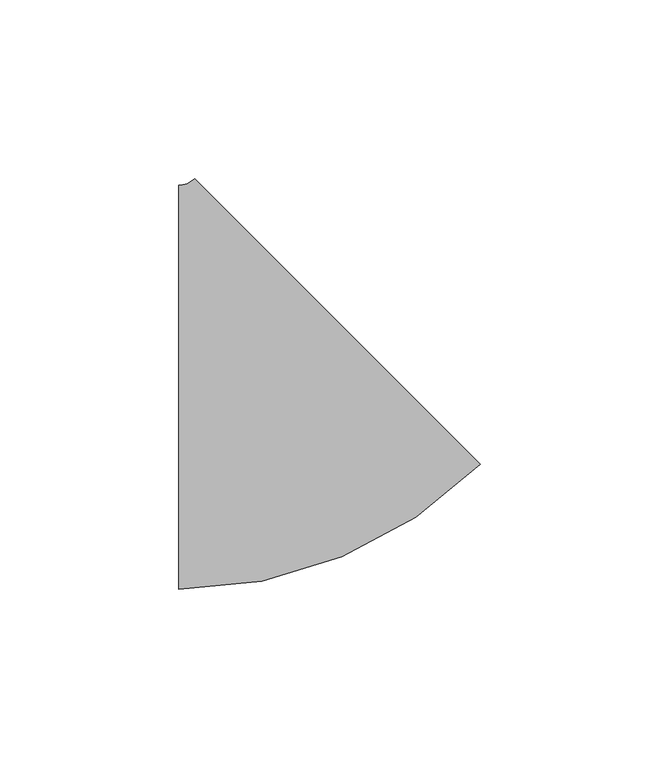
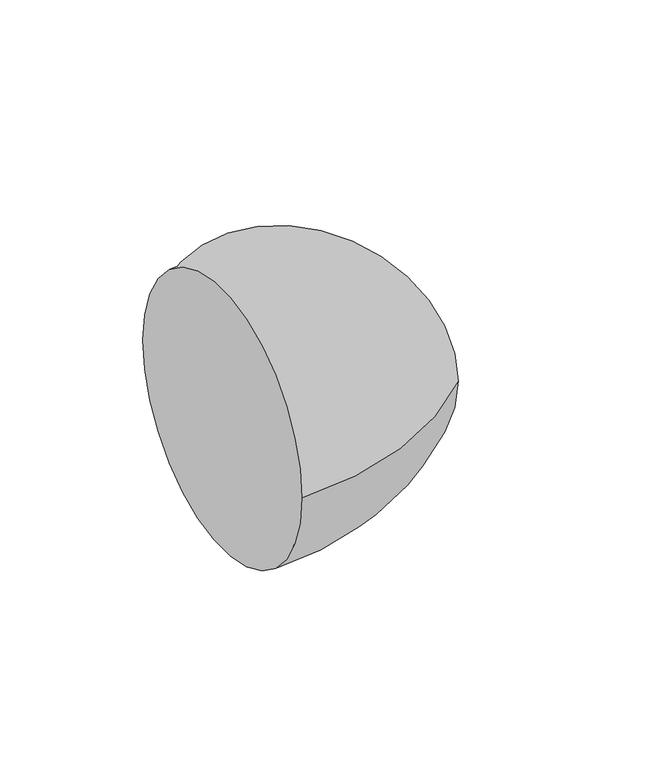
"""IFC4 building model written with IfcOpenShell, lengths in millimetres: pipe fitting geometry, M_Codo - Genérico : Estándar."""

import ifcopenshell
import ifcopenshell.guid

model = None  # the IFC model being written
_history = None  # IfcOwnerHistory: only IFC2X3 demands one
_inside = {}  # id of a spatial element -> (the spatial element, [elements in it])
_under = {}  # id of a project, library or spatial element -> (it, [spatial elements below it])
_declared = {}  # id of a project -> (the project, [libraries it declares])
_typed = {}  # id of a type object -> (the type object, [elements of that type])
_made_of = {}  # id of a material, layer set ... -> (it, [elements and type objects made of it])


def new_model(schema):
    """Start an empty IFC model of exactly this schema.

    Asked for "IFC4X3", IfcOpenShell would pick the latest addendum, in which some entities
    have other attributes; the version numbers below select the first issue.
    IFC2X3 requires an IfcOwnerHistory on every rooted entity: one is made here for all.
    """
    global model, _history
    if schema == "IFC4X3":
        model = ifcopenshell.file(schema_version=(4, 3, 0, 0))
    else:
        model = ifcopenshell.file(schema=schema)
    _inside.clear()
    _under.clear()
    _declared.clear()
    _typed.clear()
    _made_of.clear()
    _history = None
    if model.schema == "IFC2X3":
        org = make("IfcOrganization", Name="unknown")
        user = make(
            "IfcPersonAndOrganization",
            ThePerson=make("IfcPerson", FamilyName="unknown"),
            TheOrganization=org,
        )
        app = make(
            "IfcApplication",
            ApplicationDeveloper=org,
            Version="unknown",
            ApplicationFullName="unknown",
            ApplicationIdentifier="unknown",
        )
        _history = make(
            "IfcOwnerHistory",
            OwningUser=user,
            OwningApplication=app,
            ChangeAction="ADDED",
            CreationDate=0,
        )
    return model


def make(cls, **values):
    """One entity of the class cls with the attributes given. An attribute that is None is left unset."""
    return model.create_entity(
        cls, **{name: value for name, value in values.items() if value is not None}
    )


def rooted(cls, **values):
    """An entity with a GlobalId (a new one), such as an element, a storey or a relation."""
    return make(cls, GlobalId=ifcopenshell.guid.new(), OwnerHistory=_history, **values)


def si_unit(unit_type, name, prefix=None):
    """IfcSIUnit, for example si_unit("LENGTHUNIT", "METRE", prefix="MILLI")."""
    return make("IfcSIUnit", UnitType=unit_type, Prefix=prefix, Name=name)


def assignment(units):
    """IfcUnitAssignment: the units of a project."""
    return None if units is None else make("IfcUnitAssignment", Units=units)


def point(xyz):
    """IfcCartesianPoint."""
    return None if xyz is None else make("IfcCartesianPoint", Coordinates=xyz)


def direction(xyz):
    """IfcDirection."""
    return None if xyz is None else make("IfcDirection", DirectionRatios=xyz)


def frame(location, z_axis=None, x_axis=None):
    """IfcAxis2Placement3D, a coordinate frame: its origin and axes. An axis left out is left unset."""
    return make(
        "IfcAxis2Placement3D",
        Location=point(location),
        Axis=direction(z_axis),
        RefDirection=direction(x_axis),
    )


def origin():
    """The frame at (0, 0, 0) with its axes left unset."""
    return frame((0.0, 0.0, 0.0))


def place(relative_to, where):
    """IfcLocalPlacement: puts the frame where relative to a parent placement (None: the world)."""
    return make(
        "IfcLocalPlacement", PlacementRelTo=relative_to, RelativePlacement=where
    )


def context(
    kind, dimensions, precision=None, world=None, true_north=None, identifier=None
):
    """IfcGeometricRepresentationContext, for example the 3D "Model" context."""
    return make(
        "IfcGeometricRepresentationContext",
        ContextIdentifier=identifier,
        ContextType=kind,
        CoordinateSpaceDimension=dimensions,
        Precision=precision,
        WorldCoordinateSystem=world,
        TrueNorth=true_north,
    )


def project(units=None, contexts=None):
    """IfcProject with its units and contexts."""
    return rooted(
        "IfcProject",
        Name="project",
        RepresentationContexts=contexts,
        UnitsInContext=assignment(units),
    )


def spatial(cls, under=None, at=None, **own):
    """A site, building, storey or space (cls), placed at a placement, below another one or the project."""
    s = rooted(cls, ObjectPlacement=at, **own)
    if under is not None:
        _under.setdefault(under.id(), (under, []))[1].append(s)
    return s


def circle_curve(where, radius):
    """IfcCircle in the frame where."""
    return make("IfcCircle", Position=where, Radius=radius)


def ellipse_curve(where, semi_axis1, semi_axis2):
    """IfcEllipse in the frame where."""
    return make(
        "IfcEllipse", Position=where, SemiAxis1=semi_axis1, SemiAxis2=semi_axis2
    )


def trimmed(basis, trim1, trim2, sense, master):
    """IfcTrimmedCurve: the piece of a basis curve between two trims."""
    return make(
        "IfcTrimmedCurve",
        BasisCurve=basis,
        Trim1=trim1,
        Trim2=trim2,
        SenseAgreement=sense,
        MasterRepresentation=master,
    )


def shape(context_of_items, identifier, shape_type, items):
    """IfcShapeRepresentation: the items that make up one representation, for example the "Body"."""
    return make(
        "IfcShapeRepresentation",
        ContextOfItems=context_of_items,
        RepresentationIdentifier=identifier,
        RepresentationType=shape_type,
        Items=items,
    )


def source(mapping_origin, context_of_items, identifier, shape_type, items):
    """IfcRepresentationMap: a shape defined once, which mapped items show again and again."""
    return make(
        "IfcRepresentationMap",
        MappingOrigin=mapping_origin,
        MappedRepresentation=shape(context_of_items, identifier, shape_type, items),
    )


def transform(
    local_origin,
    x_axis=None,
    y_axis=None,
    z_axis=None,
    scale=None,
    scale2=None,
    scale3=None,
    uniform=True,
):
    """IfcCartesianTransformationOperator3D, or its non-uniform kind. x_axis, y_axis, z_axis: its Axis1, 2, 3."""
    if uniform:
        return make(
            "IfcCartesianTransformationOperator3D",
            Axis1=direction(x_axis),
            Axis2=direction(y_axis),
            LocalOrigin=point(local_origin),
            Scale=scale,
            Axis3=direction(z_axis),
        )
    return make(
        "IfcCartesianTransformationOperator3DnonUniform",
        Axis1=direction(x_axis),
        Axis2=direction(y_axis),
        LocalOrigin=point(local_origin),
        Scale=scale,
        Axis3=direction(z_axis),
        Scale2=scale2,
        Scale3=scale3,
    )


def mapped(mapping_source, mapping_target):
    """IfcMappedItem: shows the shape of a source again, moved by a transform."""
    return make(
        "IfcMappedItem", MappingSource=mapping_source, MappingTarget=mapping_target
    )


def made_of(thing, what):
    """Note that an element or type object is made of a material, layer set ...; save() writes the relation."""
    if what is not None:
        _made_of.setdefault(what.id(), (what, []))[1].append(thing)
    return thing


def element(
    cls,
    number,
    at=None,
    inside=None,
    cuts=None,
    type_object=None,
    material=None,
    context=None,
    identifier="Body",
    shape_type=None,
    held_by="IfcProductDefinitionShape",
    body=None,
    shapes=None,
    **own,
):
    """One element of the class cls, such as IfcWall. Its Tag is "e" and its number.

    at: its placement. inside: the storey or other place that contains it. cuts: it is an
    opening in that element (IfcRelVoidsElement). A single representation is given by context,
    identifier, shape_type and body (its items); several are given by shapes. held_by: the class
    of the entity that holds the representations. save() writes the other relations.
    """
    e = rooted(cls, Tag="e%d" % number, ObjectPlacement=at, **own)
    if body is not None:
        shapes = [shape(context, identifier, shape_type, body)]
    if shapes is not None:
        e.Representation = make(held_by, Representations=shapes)
    if inside is not None:
        _inside.setdefault(inside.id(), (inside, []))[1].append(e)
    if cuts is not None:
        rooted(
            "IfcRelVoidsElement", RelatingBuildingElement=cuts, RelatedOpeningElement=e
        )
    if type_object is not None:
        _typed.setdefault(type_object.id(), (type_object, []))[1].append(e)
    return made_of(e, material)


def aggregate(whole, parts):
    """IfcRelAggregates: a whole, such as a stair, and the parts it consists of."""
    return rooted("IfcRelAggregates", RelatingObject=whole, RelatedObjects=parts)


def save(model, path):
    """Write the relations noted so far, then the file.

    IfcRelAggregates (storeys below a building ...), IfcRelContainedInSpatialStructure (elements
    in a storey), IfcRelDefinesByType, IfcRelAssociatesMaterial and IfcRelDeclares: one each for
    every whole, place, type object, material and project.
    """
    for whole, parts in _under.values():
        aggregate(whole, parts)
    for where, things in _inside.values():
        rooted(
            "IfcRelContainedInSpatialStructure",
            RelatedElements=things,
            RelatingStructure=where,
        )
    for kind, things in _typed.values():
        rooted("IfcRelDefinesByType", RelatedObjects=things, RelatingType=kind)
    for what, things in _made_of.values():
        rooted("IfcRelAssociatesMaterial", RelatedObjects=things, RelatingMaterial=what)
    for by, libraries in _declared.values():
        rooted("IfcRelDeclares", RelatingContext=by, RelatedDefinitions=libraries)
    model.write(path)


def plane_surface(at):
    """IfcPlane: the flat surface through the origin of the frame at, square to its z axis."""
    return make("IfcPlane", Position=at)


def revolved_surface(curve, axis_point, axis_direction):
    """IfcSurfaceOfRevolution: the curve turned about the line through axis_point along axis_direction."""
    return make(
        "IfcSurfaceOfRevolution",
        SweptCurve=make("IfcArbitraryOpenProfileDef", ProfileType="CURVE", Curve=curve),
        AxisPosition=make("IfcAxis1Placement", Location=point(axis_point), Axis=direction(axis_direction)),
    )


def advanced_brep(points, edges, surfaces, faces):
    """IfcAdvancedBrep: a solid bounded by faces that lie on surfaces and meet in shared edges.

    An edge is (start, end): straight between two places in points (the first is 0);
    or (start, end, curve); or (start, end, curve, False) where it runs against its curve.
    A face is (place in surfaces, loops), or (place, loops, False) where it looks against
    its surface's normal. A loop lists edges by number (the first is 1), with a minus sign
    where the edge is run from its end to its start. The first loop is the outer one.
    """
    corners = [point(p) for p in points]
    vertices = [make("IfcVertexPoint", VertexGeometry=c) for c in corners]
    made = []
    for start, end, *more in edges:
        made.append(
            make(
                "IfcEdgeCurve",
                EdgeStart=vertices[start],
                EdgeEnd=vertices[end],
                EdgeGeometry=more[0] if more else make("IfcPolyline", Points=[corners[start], corners[end]]),
                SameSense=more[1] if len(more) > 1 else True,
            )
        )
    hull = []
    for where, loops, *sense in faces:
        bounds = []
        for j, loop in enumerate(loops):
            ring = [make("IfcOrientedEdge", EdgeElement=made[abs(k) - 1], Orientation=k > 0) for k in loop]
            bounds.append(
                make(
                    "IfcFaceOuterBound" if j == 0 else "IfcFaceBound",
                    Bound=make("IfcEdgeLoop", EdgeList=ring),
                    Orientation=True,
                )
            )
        hull.append(make("IfcAdvancedFace", Bounds=bounds, FaceSurface=surfaces[where], SameSense=sense[0] if sense else True))
    return make("IfcAdvancedBrep", Outer=make("IfcClosedShell", CfsFaces=hull))


def pipe_fitting_82aed225(model_context):
    return source(origin(), model_context, "Body", "AdvancedBrep", [
        advanced_brep(
        [(-26.0680629, -56.5875, 0.0), (-26.0680629, 56.5875, 0.0), (58.445429, -21.582884, 0.0), (-21.5781179, 58.4471889, 0.0)],
        [
            (0, 1, circle_curve(frame((-26.0680629, 0.0, 0.0), z_axis=(-1.0, 0.0, 0.0), x_axis=(0.0, 1.0, 0.0)), 56.5875)),
            (1, 0, circle_curve(frame((-26.0680629, 0.0, 0.0), z_axis=(-1.0, 0.0, 0.0), x_axis=(0.0, 1.0, 0.0)), 56.5875)),
            (2, 3, circle_curve(frame((18.4336556, 18.4321524, 0.0), z_axis=(0.7071356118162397, 0.7070779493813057, 0.0), x_axis=(-0.7070779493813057, 0.7071356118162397, 0.0)), 56.5875)),
            (3, 2, circle_curve(frame((18.4336556, 18.4321524, 0.0), z_axis=(0.7071356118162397, 0.7070779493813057, 0.0), x_axis=(-0.7070779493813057, 0.7071356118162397, 0.0)), 56.5875)),
            (3, 1, circle_curve(frame((-26.0680629, 62.9375, 0.0), z_axis=(0.0, 0.0, -1.0), x_axis=(0.0, -1.0, 0.0)), 6.35)),
            (0, 2, circle_curve(frame((-26.0680629, 62.9375, 0.0), z_axis=(0.0, 0.0, 1.0), x_axis=(0.0, -1.0, 0.0)), 119.525)),
        ],
        [
            plane_surface(frame((-26.0680629, 0.0, 0.0), z_axis=(-1.0, 0.0, 0.0), x_axis=(0.0, 0.0, 1.0))),
            plane_surface(frame((18.4336556, 18.4321524, 0.0), z_axis=(0.7071356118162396, 0.7070779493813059, 0.0), x_axis=(0.0, 0.0, 1.0))),
            revolved_surface(trimmed(ellipse_curve(frame((-26.0680629, 0.0, 0.0), z_axis=(-1.0, 0.0, 0.0), x_axis=(0.0, 1.0, 0.0)), 56.5875, 56.5875), [point((-26.0680629, -56.5875, 0.0))], [point((-26.0680629, 56.5875, 0.0))], True, "CARTESIAN"), (-26.0680629, 62.9375, 0.0), (0.0, 0.0, 1.0)),
            revolved_surface(trimmed(ellipse_curve(frame((-26.0680629, 0.0, 0.0), z_axis=(-1.0, 0.0, 0.0), x_axis=(0.0, 1.0, 0.0)), 56.5875, 56.5875), [point((-26.0680629, 56.5875, 0.0))], [point((-26.0680629, -56.5875, 0.0))], True, "CARTESIAN"), (-26.0680629, 62.9375, 0.0), (0.0, 0.0, 1.0)),
        ],
        [
            (0, [[1, 2]]),
            (1, [[3, 4]]),
            (2, [[5, -1, 6, -4]]),
            (3, [[-6, -2, -5, -3]]),
        ],
    ),
    ])


if __name__ == "__main__":
    model = new_model("IFC4")
    model_context = context("Model", 3, world=origin())
    ifc_project = project(units=[si_unit("LENGTHUNIT", "METRE", prefix="MILLI")], contexts=[model_context])
    site = spatial("IfcSite", under=ifc_project)
    building = spatial("IfcBuilding", under=site)
    placement = place(None, origin())
    pipe_fitting_shape = pipe_fitting_82aed225(model_context)
    element("IfcPipeFitting", 1, ObjectType="M_Codo - Genérico : Estándar", at=placement, inside=building, context=model_context, shape_type="MappedRepresentation", body=[
        mapped(pipe_fitting_shape, transform((0.0, 0.0, 0.0), x_axis=(1.0, 0.0, 0.0), y_axis=(0.0, 1.0, 0.0), z_axis=(0.0, 0.0, 1.0))),
    ])
    save(model, "model.ifc")
